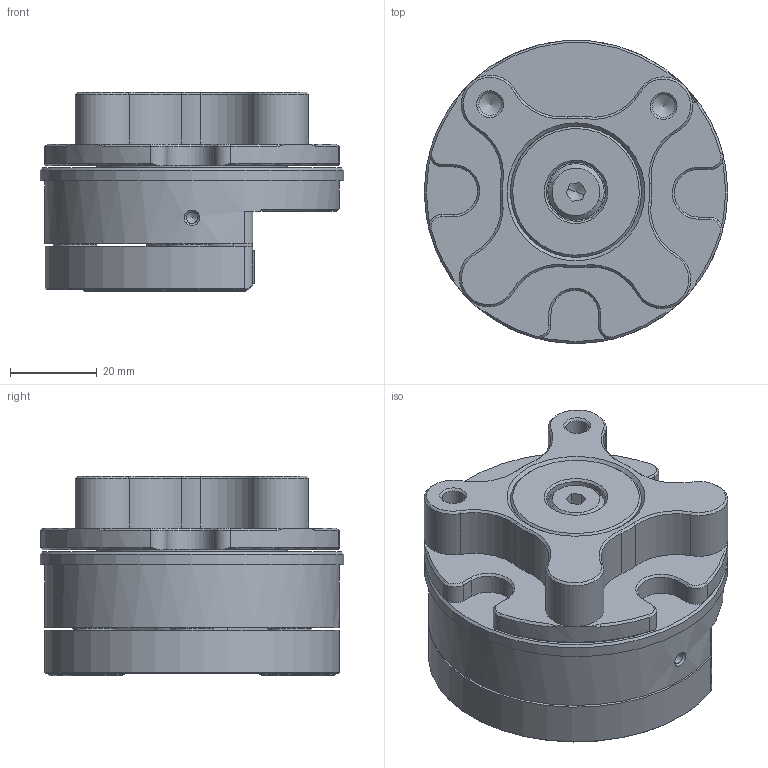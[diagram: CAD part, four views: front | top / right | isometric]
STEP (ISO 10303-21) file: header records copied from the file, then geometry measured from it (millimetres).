
FILE_DESCRIPTION(/* description */ (''),/* implementation_level */ '2;1');
FILE_NAME(/* name */ 'LA-9936-0630 MAGNETIC REFERENCE MOUNT.stp',/* time_stamp */ '2021-03-18T11:03:08+00:00',/* author */ (''),/* organization */ (''),/* preprocessor_version */ 'ST-DEVELOPER v16.7',/* originating_system */ 'SIEMENS PLM Software NX 1942',/* authorisation */ '');
FILE_SCHEMA (('AUTOMOTIVE_DESIGN { 1 0 10303 214 3 1 1 1 }'));
Length unit declared in the file: millimetre
Products named in the file (1): LA-9936-0630-A_MAGNETIC REFERENCE MOUNT
Bounding box: 70 x 70 x 46.1 mm (x, y, z)
Volume: 122505 mm3; surface area: 30701.6 mm2
Topology: 1 solids, 1 shells, 385 faces, 960 edges, 613 vertices
Faces by surface type: plane 154, cone 118, cylinder 107, torus 4, bspline 2
Full cylindrical faces by diameter (mm): 2.6 x2, 3 x3, 3.2 x3, 5.2 x6, 6 x3, 7 x3, 8 x3, 10 x5, 10.25 x2, 13.6 x1, 20 x1, 20.5 x1, 30.2 x1, 44 x1, 44.2 x1, 68 x1, 70 x1
Entity records: 12680 total; most frequent: CARTESIAN_POINT 2064, DIRECTION 1913, ORIENTED_EDGE 1650, EDGE_CURVE 825, AXIS2_PLACEMENT_3D 738, VERTEX_POINT 572, EDGE_LOOP 517, LINE 437
